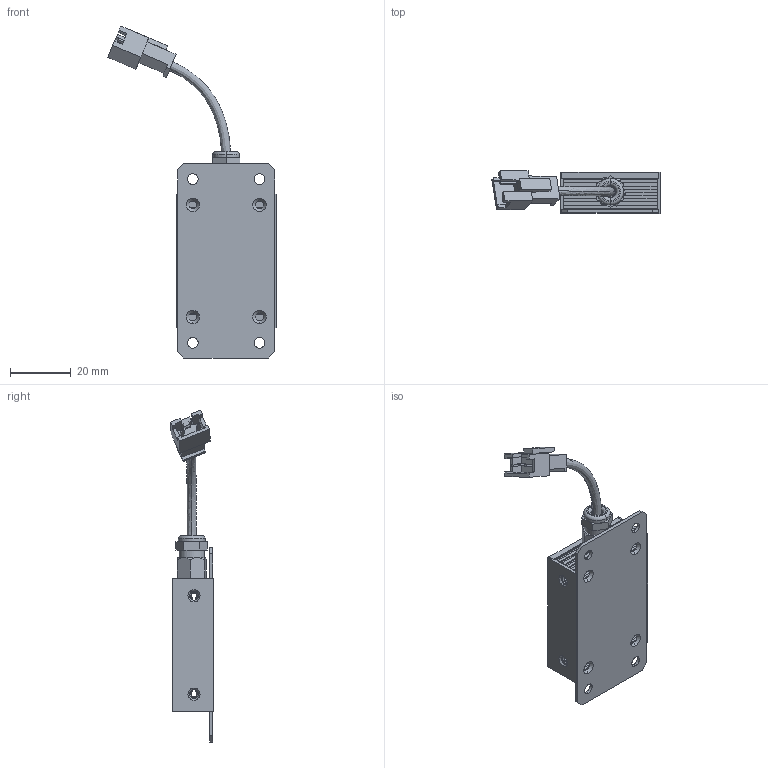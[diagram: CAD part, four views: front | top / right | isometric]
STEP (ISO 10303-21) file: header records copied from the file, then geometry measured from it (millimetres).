
FILE_DESCRIPTION (( 'STEP AP214' ), '1' );
FILE_NAME ('BHS4-00-030-X-X-24V-ASSEMBLY.STEP', '2016-01-10T07:34:34', ( 'Admin' ), ( '' ), 'SwSTEP 2.0', 'SolidWorks 2015', '' );
FILE_SCHEMA (( 'AUTOMOTIVE_DESIGN' ));
Length unit declared in the file: millimetre
Products named in the file (15): M6X0.5 CABLE CLAMP; M6X0.5 CABLE CLAMP B; M6X0.5 CABLE CLAMP A; BHS4-00-030-X-X-24V-WHITE-PCB-ASSEMBLY; 157 LED WHITE; BHS4-00-030-X-X-24V-PCB-BOARD; BHS4-00-030-X-X-24V-PERSPEX; BHS4-00-030-X-X-24V-SIDE-BAR-A; BHS4-00-030-X-X-24V-SIDE-BAR-B; BHS4-00-030-X-X-24V-SIDE-BAR-A-CABLE-HOLE; BHS4-00-030-X-X-24V-BASE-PLATE; BHS4-00-030-X-X-24V-ASSEMBLY; M6 CABLE CLAMP; 24V CONNECTER; CABLE 3MM shot
Assembly tree (50 placements, depth 4):
  BHS4-00-030-X-X-24V-ASSEMBLY
    BHS4-00-030-X-X-24V-BASE-PLATE
    BHS4-00-030-X-X-24V-SIDE-BAR-A-CABLE-HOLE
    BHS4-00-030-X-X-24V-SIDE-BAR-B  x2
    BHS4-00-030-X-X-24V-SIDE-BAR-A
    BHS4-00-030-X-X-24V-PERSPEX
    BHS4-00-030-X-X-24V-WHITE-PCB-ASSEMBLY
      BHS4-00-030-X-X-24V-PCB-BOARD
      157 LED WHITE  x36
    M6 CABLE CLAMP
      M6X0.5 CABLE CLAMP
        M6X0.5 CABLE CLAMP A
        M6X0.5 CABLE CLAMP B
      CABLE 3MM shot
      24V CONNECTER
Bounding box: 55.52 x 14.03 x 109.46 mm (x, y, z)
Volume: 11431.7 mm3; surface area: 19364.4 mm2
Topology: 47 solids, 47 shells, 596 faces, 1480 edges, 975 vertices
Faces by surface type: plane 487, cylinder 68, cone 35, torus 4, bspline 2
Entity records: 12786 total; most frequent: CARTESIAN_POINT 2449, ORIENTED_EDGE 1984, DIRECTION 1963, EDGE_CURVE 992, VECTOR 733, LINE 733, VERTEX_POINT 651, AXIS2_PLACEMENT_3D 615
